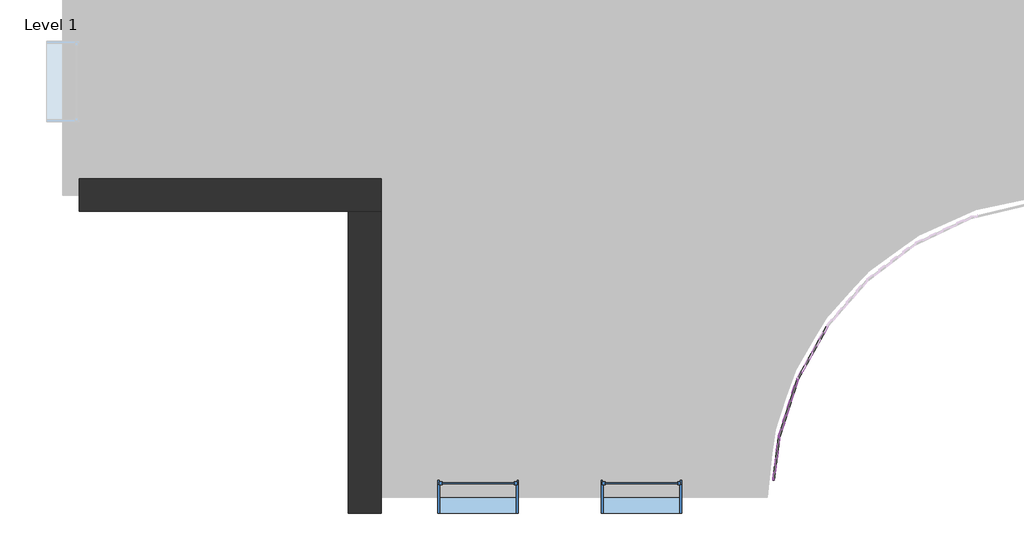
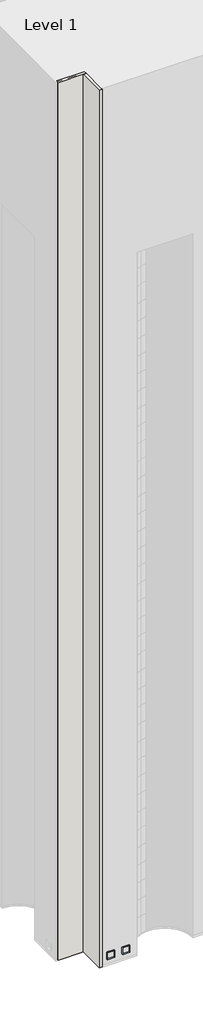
# One storey, part 1 of 20: 117 plates, 2 walls, 2 windows.
"""IFC4 building model written with IfcOpenShell, lengths in millimetres."""

from ifc_helpers import new_model, si_unit, origin, place, context, project, spatial, faceted_brep, transform, mapped, element, save
from components import system_panel_glazed_d77d1ebf, system_panel_glazed_769dbdec, window_d0035ecf, window_d434eb62

model = new_model("IFC4")

# Units and contexts
model_context = context("Model", 3, world=origin())
ifc_project = project(units=[si_unit("LENGTHUNIT", "METRE", prefix="MILLI")], contexts=[model_context])

# Site, building, storey
site = spatial("IfcSite", under=ifc_project)
building = spatial("IfcBuilding", under=site)
storey = spatial("IfcBuildingStorey", under=building, Name="Level 1", Elevation=0.0)

# Plates
placement = place(None, origin())
system_panel_glazed_shape = system_panel_glazed_d77d1ebf(model_context)
element("IfcPlate", 1, ObjectType="System Panel : Glazed", at=placement, inside=storey, context=model_context, shape_type="MappedRepresentation", body=[
    mapped(system_panel_glazed_shape, transform((-341.6843115, -19264.3431106, 0.0), x_axis=(-0.4890804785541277, -0.8722386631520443, 0.0), y_axis=(0.8722386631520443, -0.4890804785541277, 0.0), z_axis=(0.0, 0.0, 1.0))),
])
element("IfcPlate", 2, ObjectType="System Panel : Glazed", at=placement, inside=storey, context=model_context, shape_type="MappedRepresentation", body=[
    mapped(system_panel_glazed_shape, transform((-702.6313416, -20099.2151599, 0.0), x_axis=(-0.30039246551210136, -0.953815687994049, 0.0), y_axis=(0.953815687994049, -0.30039246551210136, 0.0), z_axis=(0.0, 0.0, 1.0))),
])
element("IfcPlate", 3, ObjectType="System Panel : Glazed", at=placement, inside=storey, context=model_context, shape_type="MappedRepresentation", body=[
    mapped(system_panel_glazed_shape, transform((-341.6843115, -19264.3431106, 3048.0), x_axis=(-0.4890804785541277, -0.8722386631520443, 0.0), y_axis=(0.8722386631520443, -0.4890804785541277, 0.0), z_axis=(0.0, 0.0, 1.0))),
])
element("IfcPlate", 4, ObjectType="System Panel : Glazed", at=placement, inside=storey, context=model_context, shape_type="MappedRepresentation", body=[
    mapped(system_panel_glazed_shape, transform((-702.6313416, -20099.2151599, 3048.0), x_axis=(-0.30039246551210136, -0.953815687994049, 0.0), y_axis=(0.953815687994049, -0.30039246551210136, 0.0), z_axis=(0.0, 0.0, 1.0))),
])
element("IfcPlate", 5, ObjectType="System Panel : Glazed", at=placement, inside=storey, context=model_context, shape_type="MappedRepresentation", body=[
    mapped(system_panel_glazed_shape, transform((-341.6843115, -19264.3431106, 6096.0), x_axis=(-0.4890804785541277, -0.8722386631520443, 0.0), y_axis=(0.8722386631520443, -0.4890804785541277, 0.0), z_axis=(0.0, 0.0, 1.0))),
])
element("IfcPlate", 6, ObjectType="System Panel : Glazed", at=placement, inside=storey, context=model_context, shape_type="MappedRepresentation", body=[
    mapped(system_panel_glazed_shape, transform((-702.6313416, -20099.2151599, 6096.0), x_axis=(-0.30039246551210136, -0.953815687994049, 0.0), y_axis=(0.953815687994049, -0.30039246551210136, 0.0), z_axis=(0.0, 0.0, 1.0))),
])
element("IfcPlate", 7, ObjectType="System Panel : Glazed", at=placement, inside=storey, context=model_context, shape_type="MappedRepresentation", body=[
    mapped(system_panel_glazed_shape, transform((-341.6843115, -19264.3431106, 9144.0), x_axis=(-0.4890804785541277, -0.8722386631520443, 0.0), y_axis=(0.8722386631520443, -0.4890804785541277, 0.0), z_axis=(0.0, 0.0, 1.0))),
])
element("IfcPlate", 8, ObjectType="System Panel : Glazed", at=placement, inside=storey, context=model_context, shape_type="MappedRepresentation", body=[
    mapped(system_panel_glazed_shape, transform((-702.6313416, -20099.2151599, 9144.0), x_axis=(-0.30039246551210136, -0.953815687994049, 0.0), y_axis=(0.953815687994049, -0.30039246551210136, 0.0), z_axis=(0.0, 0.0, 1.0))),
])
element("IfcPlate", 9, ObjectType="System Panel : Glazed", at=placement, inside=storey, context=model_context, shape_type="MappedRepresentation", body=[
    mapped(system_panel_glazed_shape, transform((-341.6843115, -19264.3431106, 12192.0), x_axis=(-0.4890804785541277, -0.8722386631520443, 0.0), y_axis=(0.8722386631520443, -0.4890804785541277, 0.0), z_axis=(0.0, 0.0, 1.0))),
])
element("IfcPlate", 10, ObjectType="System Panel : Glazed", at=placement, inside=storey, context=model_context, shape_type="MappedRepresentation", body=[
    mapped(system_panel_glazed_shape, transform((-702.6313416, -20099.2151599, 12192.0), x_axis=(-0.30039246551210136, -0.953815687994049, 0.0), y_axis=(0.953815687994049, -0.30039246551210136, 0.0), z_axis=(0.0, 0.0, 1.0))),
])
element("IfcPlate", 11, ObjectType="System Panel : Glazed", at=placement, inside=storey, context=model_context, shape_type="MappedRepresentation", body=[
    mapped(system_panel_glazed_shape, transform((-341.6843115, -19264.3431106, 15240.0), x_axis=(-0.4890804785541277, -0.8722386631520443, 0.0), y_axis=(0.8722386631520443, -0.4890804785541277, 0.0), z_axis=(0.0, 0.0, 1.0))),
])
element("IfcPlate", 12, ObjectType="System Panel : Glazed", at=placement, inside=storey, context=model_context, shape_type="MappedRepresentation", body=[
    mapped(system_panel_glazed_shape, transform((-702.6313416, -20099.2151599, 15240.0), x_axis=(-0.30039246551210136, -0.953815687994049, 0.0), y_axis=(0.953815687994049, -0.30039246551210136, 0.0), z_axis=(0.0, 0.0, 1.0))),
])
element("IfcPlate", 13, ObjectType="System Panel : Glazed", at=placement, inside=storey, context=model_context, shape_type="MappedRepresentation", body=[
    mapped(system_panel_glazed_shape, transform((-341.6843115, -19264.3431106, 18288.0), x_axis=(-0.48908047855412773, -0.8722386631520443, 0.0), y_axis=(0.8722386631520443, -0.48908047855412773, 0.0), z_axis=(0.0, 0.0, 1.0))),
])
element("IfcPlate", 14, ObjectType="System Panel : Glazed", at=placement, inside=storey, context=model_context, shape_type="MappedRepresentation", body=[
    mapped(system_panel_glazed_shape, transform((-702.6313416, -20099.2151599, 18288.0), x_axis=(-0.3003924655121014, -0.953815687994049, 0.0), y_axis=(0.953815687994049, -0.3003924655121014, 0.0), z_axis=(0.0, 0.0, 1.0))),
])
element("IfcPlate", 15, ObjectType="System Panel : Glazed", at=placement, inside=storey, context=model_context, shape_type="MappedRepresentation", body=[
    mapped(system_panel_glazed_shape, transform((-341.6843115, -19264.3431106, 21336.0), x_axis=(-0.4890804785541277, -0.8722386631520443, 0.0), y_axis=(0.8722386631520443, -0.4890804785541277, 0.0), z_axis=(0.0, 0.0, 1.0))),
])
element("IfcPlate", 16, ObjectType="System Panel : Glazed", at=placement, inside=storey, context=model_context, shape_type="MappedRepresentation", body=[
    mapped(system_panel_glazed_shape, transform((-702.6313416, -20099.2151599, 21336.0), x_axis=(-0.30039246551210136, -0.953815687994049, 0.0), y_axis=(0.953815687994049, -0.30039246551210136, 0.0), z_axis=(0.0, 0.0, 1.0))),
])
element("IfcPlate", 17, ObjectType="System Panel : Glazed", at=placement, inside=storey, context=model_context, shape_type="MappedRepresentation", body=[
    mapped(system_panel_glazed_shape, transform((-341.6843115, -19264.3431106, 24384.0), x_axis=(-0.4890804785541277, -0.8722386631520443, 0.0), y_axis=(0.8722386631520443, -0.4890804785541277, 0.0), z_axis=(0.0, 0.0, 1.0))),
])
element("IfcPlate", 18, ObjectType="System Panel : Glazed", at=placement, inside=storey, context=model_context, shape_type="MappedRepresentation", body=[
    mapped(system_panel_glazed_shape, transform((-702.6313416, -20099.2151599, 24384.0), x_axis=(-0.30039246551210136, -0.953815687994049, 0.0), y_axis=(0.953815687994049, -0.30039246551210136, 0.0), z_axis=(0.0, 0.0, 1.0))),
])
element("IfcPlate", 19, ObjectType="System Panel : Glazed", at=placement, inside=storey, context=model_context, shape_type="MappedRepresentation", body=[
    mapped(system_panel_glazed_shape, transform((-341.6843115, -19264.3431106, 27432.0), x_axis=(-0.4890804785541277, -0.8722386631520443, 0.0), y_axis=(0.8722386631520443, -0.4890804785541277, 0.0), z_axis=(0.0, 0.0, 1.0))),
])
element("IfcPlate", 20, ObjectType="System Panel : Glazed", at=placement, inside=storey, context=model_context, shape_type="MappedRepresentation", body=[
    mapped(system_panel_glazed_shape, transform((-702.6313416, -20099.2151599, 27432.0), x_axis=(-0.30039246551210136, -0.953815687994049, 0.0), y_axis=(0.953815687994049, -0.30039246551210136, 0.0), z_axis=(0.0, 0.0, 1.0))),
])
element("IfcPlate", 21, ObjectType="System Panel : Glazed", at=placement, inside=storey, context=model_context, shape_type="MappedRepresentation", body=[
    mapped(system_panel_glazed_shape, transform((-341.6843115, -19264.3431106, 30480.0), x_axis=(-0.4890804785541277, -0.8722386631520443, 0.0), y_axis=(0.8722386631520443, -0.4890804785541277, 0.0), z_axis=(0.0, 0.0, 1.0))),
])
element("IfcPlate", 22, ObjectType="System Panel : Glazed", at=placement, inside=storey, context=model_context, shape_type="MappedRepresentation", body=[
    mapped(system_panel_glazed_shape, transform((-702.6313416, -20099.2151599, 30480.0), x_axis=(-0.30039246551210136, -0.953815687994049, 0.0), y_axis=(0.953815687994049, -0.30039246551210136, 0.0), z_axis=(0.0, 0.0, 1.0))),
])
element("IfcPlate", 23, ObjectType="System Panel : Glazed", at=placement, inside=storey, context=model_context, shape_type="MappedRepresentation", body=[
    mapped(system_panel_glazed_shape, transform((-341.6843115, -19264.3431106, 33528.0), x_axis=(-0.4890804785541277, -0.8722386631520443, 0.0), y_axis=(0.8722386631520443, -0.4890804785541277, 0.0), z_axis=(0.0, 0.0, 1.0))),
])
element("IfcPlate", 24, ObjectType="System Panel : Glazed", at=placement, inside=storey, context=model_context, shape_type="MappedRepresentation", body=[
    mapped(system_panel_glazed_shape, transform((-702.6313416, -20099.2151599, 33528.0), x_axis=(-0.30039246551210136, -0.953815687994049, 0.0), y_axis=(0.953815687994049, -0.30039246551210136, 0.0), z_axis=(0.0, 0.0, 1.0))),
])
element("IfcPlate", 25, ObjectType="System Panel : Glazed", at=placement, inside=storey, context=model_context, shape_type="MappedRepresentation", body=[
    mapped(system_panel_glazed_shape, transform((-341.6843115, -19264.3431106, 36576.0), x_axis=(-0.4890804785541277, -0.8722386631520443, 0.0), y_axis=(0.8722386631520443, -0.4890804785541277, 0.0), z_axis=(0.0, 0.0, 1.0))),
])
element("IfcPlate", 26, ObjectType="System Panel : Glazed", at=placement, inside=storey, context=model_context, shape_type="MappedRepresentation", body=[
    mapped(system_panel_glazed_shape, transform((-702.6313416, -20099.2151599, 36576.0), x_axis=(-0.30039246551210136, -0.953815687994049, 0.0), y_axis=(0.953815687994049, -0.30039246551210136, 0.0), z_axis=(0.0, 0.0, 1.0))),
])
element("IfcPlate", 27, ObjectType="System Panel : Glazed", at=placement, inside=storey, context=model_context, shape_type="MappedRepresentation", body=[
    mapped(system_panel_glazed_shape, transform((-341.6843115, -19264.3431106, 39624.0), x_axis=(-0.4890804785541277, -0.8722386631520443, 0.0), y_axis=(0.8722386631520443, -0.4890804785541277, 0.0), z_axis=(0.0, 0.0, 1.0))),
])
element("IfcPlate", 28, ObjectType="System Panel : Glazed", at=placement, inside=storey, context=model_context, shape_type="MappedRepresentation", body=[
    mapped(system_panel_glazed_shape, transform((-702.6313416, -20099.2151599, 39624.0), x_axis=(-0.30039246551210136, -0.953815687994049, 0.0), y_axis=(0.953815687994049, -0.30039246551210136, 0.0), z_axis=(0.0, 0.0, 1.0))),
])
element("IfcPlate", 29, ObjectType="System Panel : Glazed", at=placement, inside=storey, context=model_context, shape_type="MappedRepresentation", body=[
    mapped(system_panel_glazed_shape, transform((-341.6843115, -19264.3431106, 42672.0), x_axis=(-0.4890804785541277, -0.8722386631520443, 0.0), y_axis=(0.8722386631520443, -0.4890804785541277, 0.0), z_axis=(0.0, 0.0, 1.0))),
])
element("IfcPlate", 30, ObjectType="System Panel : Glazed", at=placement, inside=storey, context=model_context, shape_type="MappedRepresentation", body=[
    mapped(system_panel_glazed_shape, transform((-702.6313416, -20099.2151599, 42672.0), x_axis=(-0.30039246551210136, -0.953815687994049, 0.0), y_axis=(0.953815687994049, -0.30039246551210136, 0.0), z_axis=(0.0, 0.0, 1.0))),
])
element("IfcPlate", 31, ObjectType="System Panel : Glazed", at=placement, inside=storey, context=model_context, shape_type="MappedRepresentation", body=[
    mapped(system_panel_glazed_shape, transform((-341.6843115, -19264.3431106, 45720.0), x_axis=(-0.4890804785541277, -0.8722386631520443, 0.0), y_axis=(0.8722386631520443, -0.4890804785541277, 0.0), z_axis=(0.0, 0.0, 1.0))),
])
element("IfcPlate", 32, ObjectType="System Panel : Glazed", at=placement, inside=storey, context=model_context, shape_type="MappedRepresentation", body=[
    mapped(system_panel_glazed_shape, transform((-702.6313416, -20099.2151599, 45720.0), x_axis=(-0.30039246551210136, -0.953815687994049, 0.0), y_axis=(0.953815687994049, -0.30039246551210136, 0.0), z_axis=(0.0, 0.0, 1.0))),
])
element("IfcPlate", 33, ObjectType="System Panel : Glazed", at=placement, inside=storey, context=model_context, shape_type="MappedRepresentation", body=[
    mapped(system_panel_glazed_shape, transform((-341.6843115, -19264.3431106, 48768.0), x_axis=(-0.4890804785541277, -0.8722386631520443, 0.0), y_axis=(0.8722386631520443, -0.4890804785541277, 0.0), z_axis=(0.0, 0.0, 1.0))),
])
element("IfcPlate", 34, ObjectType="System Panel : Glazed", at=placement, inside=storey, context=model_context, shape_type="MappedRepresentation", body=[
    mapped(system_panel_glazed_shape, transform((-702.6313416, -20099.2151599, 48768.0), x_axis=(-0.30039246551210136, -0.953815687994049, 0.0), y_axis=(0.953815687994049, -0.30039246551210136, 0.0), z_axis=(0.0, 0.0, 1.0))),
])
element("IfcPlate", 35, ObjectType="System Panel : Glazed", at=placement, inside=storey, context=model_context, shape_type="MappedRepresentation", body=[
    mapped(system_panel_glazed_shape, transform((-341.6843115, -19264.3431106, 51816.0), x_axis=(-0.4890804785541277, -0.8722386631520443, 0.0), y_axis=(0.8722386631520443, -0.4890804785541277, 0.0), z_axis=(0.0, 0.0, 1.0))),
])
element("IfcPlate", 36, ObjectType="System Panel : Glazed", at=placement, inside=storey, context=model_context, shape_type="MappedRepresentation", body=[
    mapped(system_panel_glazed_shape, transform((-702.6313416, -20099.2151599, 51816.0), x_axis=(-0.30039246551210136, -0.953815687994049, 0.0), y_axis=(0.953815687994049, -0.30039246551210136, 0.0), z_axis=(0.0, 0.0, 1.0))),
])
element("IfcPlate", 37, ObjectType="System Panel : Glazed", at=placement, inside=storey, context=model_context, shape_type="MappedRepresentation", body=[
    mapped(system_panel_glazed_shape, transform((-341.6843115, -19264.3431106, 54864.0), x_axis=(-0.4890804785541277, -0.8722386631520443, 0.0), y_axis=(0.8722386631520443, -0.4890804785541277, 0.0), z_axis=(0.0, 0.0, 1.0))),
])
element("IfcPlate", 38, ObjectType="System Panel : Glazed", at=placement, inside=storey, context=model_context, shape_type="MappedRepresentation", body=[
    mapped(system_panel_glazed_shape, transform((-702.6313416, -20099.2151599, 54864.0), x_axis=(-0.30039246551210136, -0.953815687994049, 0.0), y_axis=(0.953815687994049, -0.30039246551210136, 0.0), z_axis=(0.0, 0.0, 1.0))),
])
element("IfcPlate", 39, ObjectType="System Panel : Glazed", at=placement, inside=storey, context=model_context, shape_type="MappedRepresentation", body=[
    mapped(system_panel_glazed_shape, transform((-341.6843115, -19264.3431106, 57912.0), x_axis=(-0.4890804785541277, -0.8722386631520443, 0.0), y_axis=(0.8722386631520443, -0.4890804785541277, 0.0), z_axis=(0.0, 0.0, 1.0))),
])
element("IfcPlate", 40, ObjectType="System Panel : Glazed", at=placement, inside=storey, context=model_context, shape_type="MappedRepresentation", body=[
    mapped(system_panel_glazed_shape, transform((-702.6313416, -20099.2151599, 57912.0), x_axis=(-0.30039246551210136, -0.953815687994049, 0.0), y_axis=(0.953815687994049, -0.30039246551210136, 0.0), z_axis=(0.0, 0.0, 1.0))),
])
element("IfcPlate", 41, ObjectType="System Panel : Glazed", at=placement, inside=storey, context=model_context, shape_type="MappedRepresentation", body=[
    mapped(system_panel_glazed_shape, transform((-341.6843115, -19264.3431106, 60960.0), x_axis=(-0.4890804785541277, -0.8722386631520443, 0.0), y_axis=(0.8722386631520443, -0.4890804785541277, 0.0), z_axis=(0.0, 0.0, 1.0))),
])
element("IfcPlate", 42, ObjectType="System Panel : Glazed", at=placement, inside=storey, context=model_context, shape_type="MappedRepresentation", body=[
    mapped(system_panel_glazed_shape, transform((-702.6313416, -20099.2151599, 60960.0), x_axis=(-0.30039246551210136, -0.953815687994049, 0.0), y_axis=(0.953815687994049, -0.30039246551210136, 0.0), z_axis=(0.0, 0.0, 1.0))),
])
element("IfcPlate", 43, ObjectType="System Panel : Glazed", at=placement, inside=storey, context=model_context, shape_type="MappedRepresentation", body=[
    mapped(system_panel_glazed_shape, transform((-341.6843115, -19264.3431106, 64008.0), x_axis=(-0.4890804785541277, -0.8722386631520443, 0.0), y_axis=(0.8722386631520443, -0.4890804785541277, 0.0), z_axis=(0.0, 0.0, 1.0))),
])
element("IfcPlate", 44, ObjectType="System Panel : Glazed", at=placement, inside=storey, context=model_context, shape_type="MappedRepresentation", body=[
    mapped(system_panel_glazed_shape, transform((-702.6313416, -20099.2151599, 64008.0), x_axis=(-0.30039246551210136, -0.953815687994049, 0.0), y_axis=(0.953815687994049, -0.30039246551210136, 0.0), z_axis=(0.0, 0.0, 1.0))),
])
element("IfcPlate", 45, ObjectType="System Panel : Glazed", at=placement, inside=storey, context=model_context, shape_type="MappedRepresentation", body=[
    mapped(system_panel_glazed_shape, transform((-341.6843115, -19264.3431106, 67056.0), x_axis=(-0.4890804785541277, -0.8722386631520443, 0.0), y_axis=(0.8722386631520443, -0.4890804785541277, 0.0), z_axis=(0.0, 0.0, 1.0))),
])
element("IfcPlate", 46, ObjectType="System Panel : Glazed", at=placement, inside=storey, context=model_context, shape_type="MappedRepresentation", body=[
    mapped(system_panel_glazed_shape, transform((-702.6313416, -20099.2151599, 67056.0), x_axis=(-0.30039246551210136, -0.953815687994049, 0.0), y_axis=(0.953815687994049, -0.30039246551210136, 0.0), z_axis=(0.0, 0.0, 1.0))),
])
element("IfcPlate", 47, ObjectType="System Panel : Glazed", at=placement, inside=storey, context=model_context, shape_type="MappedRepresentation", body=[
    mapped(system_panel_glazed_shape, transform((-341.6843115, -19264.3431106, 70104.0), x_axis=(-0.4890804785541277, -0.8722386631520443, 0.0), y_axis=(0.8722386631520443, -0.4890804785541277, 0.0), z_axis=(0.0, 0.0, 1.0))),
])
element("IfcPlate", 48, ObjectType="System Panel : Glazed", at=placement, inside=storey, context=model_context, shape_type="MappedRepresentation", body=[
    mapped(system_panel_glazed_shape, transform((-702.6313416, -20099.2151599, 70104.0), x_axis=(-0.30039246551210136, -0.953815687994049, 0.0), y_axis=(0.953815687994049, -0.30039246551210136, 0.0), z_axis=(0.0, 0.0, 1.0))),
])
element("IfcPlate", 49, ObjectType="System Panel : Glazed", at=placement, inside=storey, context=model_context, shape_type="MappedRepresentation", body=[
    mapped(system_panel_glazed_shape, transform((-341.6843115, -19264.3431106, 73152.0), x_axis=(-0.4890804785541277, -0.8722386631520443, 0.0), y_axis=(0.8722386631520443, -0.4890804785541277, 0.0), z_axis=(0.0, 0.0, 1.0))),
])
element("IfcPlate", 50, ObjectType="System Panel : Glazed", at=placement, inside=storey, context=model_context, shape_type="MappedRepresentation", body=[
    mapped(system_panel_glazed_shape, transform((-702.6313416, -20099.2151599, 73152.0), x_axis=(-0.30039246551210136, -0.953815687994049, 0.0), y_axis=(0.953815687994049, -0.30039246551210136, 0.0), z_axis=(0.0, 0.0, 1.0))),
])
element("IfcPlate", 51, ObjectType="System Panel : Glazed", at=placement, inside=storey, context=model_context, shape_type="MappedRepresentation", body=[
    mapped(system_panel_glazed_shape, transform((-341.6843115, -19264.3431106, 76200.0), x_axis=(-0.4890804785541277, -0.8722386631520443, 0.0), y_axis=(0.8722386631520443, -0.4890804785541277, 0.0), z_axis=(0.0, 0.0, 1.0))),
])
element("IfcPlate", 52, ObjectType="System Panel : Glazed", at=placement, inside=storey, context=model_context, shape_type="MappedRepresentation", body=[
    mapped(system_panel_glazed_shape, transform((-702.6313416, -20099.2151599, 76200.0), x_axis=(-0.30039246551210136, -0.953815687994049, 0.0), y_axis=(0.953815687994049, -0.30039246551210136, 0.0), z_axis=(0.0, 0.0, 1.0))),
])
element("IfcPlate", 53, ObjectType="System Panel : Glazed", at=placement, inside=storey, context=model_context, shape_type="MappedRepresentation", body=[
    mapped(system_panel_glazed_shape, transform((-341.6843115, -19264.3431106, 79248.0), x_axis=(-0.4890804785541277, -0.8722386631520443, 0.0), y_axis=(0.8722386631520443, -0.4890804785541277, 0.0), z_axis=(0.0, 0.0, 1.0))),
])
element("IfcPlate", 54, ObjectType="System Panel : Glazed", at=placement, inside=storey, context=model_context, shape_type="MappedRepresentation", body=[
    mapped(system_panel_glazed_shape, transform((-702.6313416, -20099.2151599, 79248.0), x_axis=(-0.30039246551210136, -0.953815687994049, 0.0), y_axis=(0.953815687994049, -0.30039246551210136, 0.0), z_axis=(0.0, 0.0, 1.0))),
])
element("IfcPlate", 55, ObjectType="System Panel : Glazed", at=placement, inside=storey, context=model_context, shape_type="MappedRepresentation", body=[
    mapped(system_panel_glazed_shape, transform((-341.6843115, -19264.3431106, 82296.0), x_axis=(-0.4890804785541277, -0.8722386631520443, 0.0), y_axis=(0.8722386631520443, -0.4890804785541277, 0.0), z_axis=(0.0, 0.0, 1.0))),
])
element("IfcPlate", 56, ObjectType="System Panel : Glazed", at=placement, inside=storey, context=model_context, shape_type="MappedRepresentation", body=[
    mapped(system_panel_glazed_shape, transform((-702.6313416, -20099.2151599, 82296.0), x_axis=(-0.30039246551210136, -0.953815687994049, 0.0), y_axis=(0.953815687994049, -0.30039246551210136, 0.0), z_axis=(0.0, 0.0, 1.0))),
])
element("IfcPlate", 57, ObjectType="System Panel : Glazed", at=placement, inside=storey, context=model_context, shape_type="MappedRepresentation", body=[
    mapped(system_panel_glazed_shape, transform((-341.6843115, -19264.3431106, 85344.0), x_axis=(-0.4890804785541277, -0.8722386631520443, 0.0), y_axis=(0.8722386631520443, -0.4890804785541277, 0.0), z_axis=(0.0, 0.0, 1.0))),
])
element("IfcPlate", 58, ObjectType="System Panel : Glazed", at=placement, inside=storey, context=model_context, shape_type="MappedRepresentation", body=[
    mapped(system_panel_glazed_shape, transform((-702.6313416, -20099.2151599, 85344.0), x_axis=(-0.30039246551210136, -0.953815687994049, 0.0), y_axis=(0.953815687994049, -0.30039246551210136, 0.0), z_axis=(0.0, 0.0, 1.0))),
])
element("IfcPlate", 59, ObjectType="System Panel : Glazed", at=placement, inside=storey, context=model_context, shape_type="MappedRepresentation", body=[
    mapped(system_panel_glazed_shape, transform((-341.6843115, -19264.3431106, 88392.0), x_axis=(-0.4890804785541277, -0.8722386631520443, 0.0), y_axis=(0.8722386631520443, -0.4890804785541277, 0.0), z_axis=(0.0, 0.0, 1.0))),
])
element("IfcPlate", 60, ObjectType="System Panel : Glazed", at=placement, inside=storey, context=model_context, shape_type="MappedRepresentation", body=[
    mapped(system_panel_glazed_shape, transform((-702.6313416, -20099.2151599, 88392.0), x_axis=(-0.30039246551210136, -0.953815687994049, 0.0), y_axis=(0.953815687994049, -0.30039246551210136, 0.0), z_axis=(0.0, 0.0, 1.0))),
])
element("IfcPlate", 61, ObjectType="System Panel : Glazed", at=placement, inside=storey, context=model_context, shape_type="MappedRepresentation", body=[
    mapped(system_panel_glazed_shape, transform((-341.6843115, -19264.3431106, 91440.0), x_axis=(-0.4890804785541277, -0.8722386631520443, 0.0), y_axis=(0.8722386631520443, -0.4890804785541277, 0.0), z_axis=(0.0, 0.0, 1.0))),
])
element("IfcPlate", 62, ObjectType="System Panel : Glazed", at=placement, inside=storey, context=model_context, shape_type="MappedRepresentation", body=[
    mapped(system_panel_glazed_shape, transform((-702.6313416, -20099.2151599, 91440.0), x_axis=(-0.30039246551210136, -0.953815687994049, 0.0), y_axis=(0.953815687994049, -0.30039246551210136, 0.0), z_axis=(0.0, 0.0, 1.0))),
])
element("IfcPlate", 63, ObjectType="System Panel : Glazed", at=placement, inside=storey, context=model_context, shape_type="MappedRepresentation", body=[
    mapped(system_panel_glazed_shape, transform((-341.6843115, -19264.3431106, 94488.0), x_axis=(-0.4890804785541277, -0.8722386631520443, 0.0), y_axis=(0.8722386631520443, -0.4890804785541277, 0.0), z_axis=(0.0, 0.0, 1.0))),
])
element("IfcPlate", 64, ObjectType="System Panel : Glazed", at=placement, inside=storey, context=model_context, shape_type="MappedRepresentation", body=[
    mapped(system_panel_glazed_shape, transform((-702.6313416, -20099.2151599, 94488.0), x_axis=(-0.30039246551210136, -0.953815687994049, 0.0), y_axis=(0.953815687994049, -0.30039246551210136, 0.0), z_axis=(0.0, 0.0, 1.0))),
])
element("IfcPlate", 65, ObjectType="System Panel : Glazed", at=placement, inside=storey, context=model_context, shape_type="MappedRepresentation", body=[
    mapped(system_panel_glazed_shape, transform((-341.6843115, -19264.3431106, 97536.0), x_axis=(-0.4890804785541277, -0.8722386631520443, 0.0), y_axis=(0.8722386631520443, -0.4890804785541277, 0.0), z_axis=(0.0, 0.0, 1.0))),
])
element("IfcPlate", 66, ObjectType="System Panel : Glazed", at=placement, inside=storey, context=model_context, shape_type="MappedRepresentation", body=[
    mapped(system_panel_glazed_shape, transform((-702.6313416, -20099.2151599, 97536.0), x_axis=(-0.30039246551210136, -0.953815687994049, 0.0), y_axis=(0.953815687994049, -0.30039246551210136, 0.0), z_axis=(0.0, 0.0, 1.0))),
])
element("IfcPlate", 67, ObjectType="System Panel : Glazed", at=placement, inside=storey, context=model_context, shape_type="MappedRepresentation", body=[
    mapped(system_panel_glazed_shape, transform((-341.6843115, -19264.3431106, 100584.0), x_axis=(-0.4890804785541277, -0.8722386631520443, 0.0), y_axis=(0.8722386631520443, -0.4890804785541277, 0.0), z_axis=(0.0, 0.0, 1.0))),
])
element("IfcPlate", 68, ObjectType="System Panel : Glazed", at=placement, inside=storey, context=model_context, shape_type="MappedRepresentation", body=[
    mapped(system_panel_glazed_shape, transform((-702.6313416, -20099.2151599, 100584.0), x_axis=(-0.30039246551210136, -0.953815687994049, 0.0), y_axis=(0.953815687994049, -0.30039246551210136, 0.0), z_axis=(0.0, 0.0, 1.0))),
])
element("IfcPlate", 69, ObjectType="System Panel : Glazed", at=placement, inside=storey, context=model_context, shape_type="MappedRepresentation", body=[
    mapped(system_panel_glazed_shape, transform((-341.6843115, -19264.3431106, 103632.0), x_axis=(-0.4890804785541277, -0.8722386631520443, 0.0), y_axis=(0.8722386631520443, -0.4890804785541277, 0.0), z_axis=(0.0, 0.0, 1.0))),
])
element("IfcPlate", 70, ObjectType="System Panel : Glazed", at=placement, inside=storey, context=model_context, shape_type="MappedRepresentation", body=[
    mapped(system_panel_glazed_shape, transform((-702.6313416, -20099.2151599, 103632.0), x_axis=(-0.30039246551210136, -0.953815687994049, 0.0), y_axis=(0.953815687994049, -0.30039246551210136, 0.0), z_axis=(0.0, 0.0, 1.0))),
])
element("IfcPlate", 71, ObjectType="System Panel : Glazed", at=placement, inside=storey, context=model_context, shape_type="MappedRepresentation", body=[
    mapped(system_panel_glazed_shape, transform((-341.6843115, -19264.3431106, 106680.0), x_axis=(-0.4890804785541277, -0.8722386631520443, 0.0), y_axis=(0.8722386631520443, -0.4890804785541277, 0.0), z_axis=(0.0, 0.0, 1.0))),
])
element("IfcPlate", 72, ObjectType="System Panel : Glazed", at=placement, inside=storey, context=model_context, shape_type="MappedRepresentation", body=[
    mapped(system_panel_glazed_shape, transform((-702.6313416, -20099.2151599, 106680.0), x_axis=(-0.30039246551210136, -0.953815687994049, 0.0), y_axis=(0.953815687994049, -0.30039246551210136, 0.0), z_axis=(0.0, 0.0, 1.0))),
])
element("IfcPlate", 73, ObjectType="System Panel : Glazed", at=placement, inside=storey, context=model_context, shape_type="MappedRepresentation", body=[
    mapped(system_panel_glazed_shape, transform((-341.6843115, -19264.3431106, 109728.0), x_axis=(-0.4890804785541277, -0.8722386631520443, 0.0), y_axis=(0.8722386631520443, -0.4890804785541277, 0.0), z_axis=(0.0, 0.0, 1.0))),
])
element("IfcPlate", 74, ObjectType="System Panel : Glazed", at=placement, inside=storey, context=model_context, shape_type="MappedRepresentation", body=[
    mapped(system_panel_glazed_shape, transform((-702.6313416, -20099.2151599, 109728.0), x_axis=(-0.30039246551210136, -0.953815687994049, 0.0), y_axis=(0.953815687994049, -0.30039246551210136, 0.0), z_axis=(0.0, 0.0, 1.0))),
])
element("IfcPlate", 75, ObjectType="System Panel : Glazed", at=placement, inside=storey, context=model_context, shape_type="MappedRepresentation", body=[
    mapped(system_panel_glazed_shape, transform((-702.6313416, -20099.2151599, 112776.0), x_axis=(-0.30039246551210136, -0.953815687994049, 0.0), y_axis=(0.953815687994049, -0.30039246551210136, 0.0), z_axis=(0.0, 0.0, 1.0))),
])
element("IfcPlate", 76, ObjectType="System Panel : Glazed", at=placement, inside=storey, context=model_context, shape_type="MappedRepresentation", body=[
    mapped(system_panel_glazed_shape, transform((-702.6313416, -20099.2151599, 115824.0), x_axis=(-0.30039246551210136, -0.953815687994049, 0.0), y_axis=(0.953815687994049, -0.30039246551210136, 0.0), z_axis=(0.0, 0.0, 1.0))),
])
element("IfcPlate", 77, ObjectType="System Panel : Glazed", at=placement, inside=storey, context=model_context, shape_type="MappedRepresentation", body=[
    mapped(system_panel_glazed_shape, transform((-702.6313416, -20099.2151599, 118872.0), x_axis=(-0.30039246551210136, -0.953815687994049, 0.0), y_axis=(0.953815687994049, -0.30039246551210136, 0.0), z_axis=(0.0, 0.0, 1.0))),
])
system_panel_glazed_2_shape = system_panel_glazed_769dbdec(model_context)
element("IfcPlate", 78, ObjectType="System Panel : Glazed", at=placement, inside=storey, context=model_context, shape_type="MappedRepresentation", body=[
    mapped(system_panel_glazed_2_shape, transform((-881.7156475, -20856.4056189, 0.0), x_axis=(-0.12891857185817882, -0.99165518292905, 0.0), y_axis=(0.99165518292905, -0.12891857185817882, 0.0), z_axis=(0.0, 0.0, 1.0))),
])
element("IfcPlate", 79, ObjectType="System Panel : Glazed", at=placement, inside=storey, context=model_context, shape_type="MappedRepresentation", body=[
    mapped(system_panel_glazed_2_shape, transform((-881.7156475, -20856.4056189, 3048.0), x_axis=(-0.12891857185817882, -0.99165518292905, 0.0), y_axis=(0.99165518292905, -0.12891857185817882, 0.0), z_axis=(0.0, 0.0, 1.0))),
])
element("IfcPlate", 80, ObjectType="System Panel : Glazed", at=placement, inside=storey, context=model_context, shape_type="MappedRepresentation", body=[
    mapped(system_panel_glazed_2_shape, transform((-881.7156475, -20856.4056189, 6096.0), x_axis=(-0.12891857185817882, -0.99165518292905, 0.0), y_axis=(0.99165518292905, -0.12891857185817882, 0.0), z_axis=(0.0, 0.0, 1.0))),
])
element("IfcPlate", 81, ObjectType="System Panel : Glazed", at=placement, inside=storey, context=model_context, shape_type="MappedRepresentation", body=[
    mapped(system_panel_glazed_2_shape, transform((-881.7156475, -20856.4056189, 9144.0), x_axis=(-0.12891857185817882, -0.99165518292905, 0.0), y_axis=(0.99165518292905, -0.12891857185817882, 0.0), z_axis=(0.0, 0.0, 1.0))),
])
element("IfcPlate", 82, ObjectType="System Panel : Glazed", at=placement, inside=storey, context=model_context, shape_type="MappedRepresentation", body=[
    mapped(system_panel_glazed_2_shape, transform((-881.7156475, -20856.4056189, 12192.0), x_axis=(-0.12891857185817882, -0.99165518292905, 0.0), y_axis=(0.99165518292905, -0.12891857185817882, 0.0), z_axis=(0.0, 0.0, 1.0))),
])
element("IfcPlate", 83, ObjectType="System Panel : Glazed", at=placement, inside=storey, context=model_context, shape_type="MappedRepresentation", body=[
    mapped(system_panel_glazed_2_shape, transform((-881.7156475, -20856.4056189, 15240.0), x_axis=(-0.12891857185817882, -0.99165518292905, 0.0), y_axis=(0.99165518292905, -0.12891857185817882, 0.0), z_axis=(0.0, 0.0, 1.0))),
])
element("IfcPlate", 84, ObjectType="System Panel : Glazed", at=placement, inside=storey, context=model_context, shape_type="MappedRepresentation", body=[
    mapped(system_panel_glazed_2_shape, transform((-881.7156475, -20856.4056189, 18288.0), x_axis=(-0.12891857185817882, -0.99165518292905, 0.0), y_axis=(0.99165518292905, -0.12891857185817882, 0.0), z_axis=(0.0, 0.0, 1.0))),
])
element("IfcPlate", 85, ObjectType="System Panel : Glazed", at=placement, inside=storey, context=model_context, shape_type="MappedRepresentation", body=[
    mapped(system_panel_glazed_2_shape, transform((-881.7156475, -20856.4056189, 21336.0), x_axis=(-0.12891857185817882, -0.99165518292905, 0.0), y_axis=(0.99165518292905, -0.12891857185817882, 0.0), z_axis=(0.0, 0.0, 1.0))),
])
element("IfcPlate", 86, ObjectType="System Panel : Glazed", at=placement, inside=storey, context=model_context, shape_type="MappedRepresentation", body=[
    mapped(system_panel_glazed_2_shape, transform((-881.7156475, -20856.4056189, 24384.0), x_axis=(-0.12891857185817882, -0.99165518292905, 0.0), y_axis=(0.99165518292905, -0.12891857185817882, 0.0), z_axis=(0.0, 0.0, 1.0))),
])
element("IfcPlate", 87, ObjectType="System Panel : Glazed", at=placement, inside=storey, context=model_context, shape_type="MappedRepresentation", body=[
    mapped(system_panel_glazed_2_shape, transform((-881.7156475, -20856.4056189, 27432.0), x_axis=(-0.12891857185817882, -0.99165518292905, 0.0), y_axis=(0.99165518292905, -0.12891857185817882, 0.0), z_axis=(0.0, 0.0, 1.0))),
])
element("IfcPlate", 88, ObjectType="System Panel : Glazed", at=placement, inside=storey, context=model_context, shape_type="MappedRepresentation", body=[
    mapped(system_panel_glazed_2_shape, transform((-881.7156475, -20856.4056189, 30480.0), x_axis=(-0.12891857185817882, -0.99165518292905, 0.0), y_axis=(0.99165518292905, -0.12891857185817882, 0.0), z_axis=(0.0, 0.0, 1.0))),
])
element("IfcPlate", 89, ObjectType="System Panel : Glazed", at=placement, inside=storey, context=model_context, shape_type="MappedRepresentation", body=[
    mapped(system_panel_glazed_2_shape, transform((-881.7156475, -20856.4056189, 33528.0), x_axis=(-0.12891857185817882, -0.99165518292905, 0.0), y_axis=(0.99165518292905, -0.12891857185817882, 0.0), z_axis=(0.0, 0.0, 1.0))),
])
element("IfcPlate", 90, ObjectType="System Panel : Glazed", at=placement, inside=storey, context=model_context, shape_type="MappedRepresentation", body=[
    mapped(system_panel_glazed_2_shape, transform((-881.7156475, -20856.4056189, 36576.0), x_axis=(-0.12891857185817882, -0.99165518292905, 0.0), y_axis=(0.99165518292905, -0.12891857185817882, 0.0), z_axis=(0.0, 0.0, 1.0))),
])
element("IfcPlate", 91, ObjectType="System Panel : Glazed", at=placement, inside=storey, context=model_context, shape_type="MappedRepresentation", body=[
    mapped(system_panel_glazed_2_shape, transform((-881.7156475, -20856.4056189, 39624.0), x_axis=(-0.12891857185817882, -0.99165518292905, 0.0), y_axis=(0.99165518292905, -0.12891857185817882, 0.0), z_axis=(0.0, 0.0, 1.0))),
])
element("IfcPlate", 92, ObjectType="System Panel : Glazed", at=placement, inside=storey, context=model_context, shape_type="MappedRepresentation", body=[
    mapped(system_panel_glazed_2_shape, transform((-881.7156475, -20856.4056189, 42672.0), x_axis=(-0.12891857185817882, -0.99165518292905, 0.0), y_axis=(0.99165518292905, -0.12891857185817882, 0.0), z_axis=(0.0, 0.0, 1.0))),
])
element("IfcPlate", 93, ObjectType="System Panel : Glazed", at=placement, inside=storey, context=model_context, shape_type="MappedRepresentation", body=[
    mapped(system_panel_glazed_2_shape, transform((-881.7156475, -20856.4056189, 45720.0), x_axis=(-0.12891857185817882, -0.99165518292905, 0.0), y_axis=(0.99165518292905, -0.12891857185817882, 0.0), z_axis=(0.0, 0.0, 1.0))),
])
element("IfcPlate", 94, ObjectType="System Panel : Glazed", at=placement, inside=storey, context=model_context, shape_type="MappedRepresentation", body=[
    mapped(system_panel_glazed_2_shape, transform((-881.7156475, -20856.4056189, 48768.0), x_axis=(-0.12891857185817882, -0.99165518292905, 0.0), y_axis=(0.99165518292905, -0.12891857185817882, 0.0), z_axis=(0.0, 0.0, 1.0))),
])
element("IfcPlate", 95, ObjectType="System Panel : Glazed", at=placement, inside=storey, context=model_context, shape_type="MappedRepresentation", body=[
    mapped(system_panel_glazed_2_shape, transform((-881.7156475, -20856.4056189, 51816.0), x_axis=(-0.12891857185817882, -0.99165518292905, 0.0), y_axis=(0.99165518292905, -0.12891857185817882, 0.0), z_axis=(0.0, 0.0, 1.0))),
])
element("IfcPlate", 96, ObjectType="System Panel : Glazed", at=placement, inside=storey, context=model_context, shape_type="MappedRepresentation", body=[
    mapped(system_panel_glazed_2_shape, transform((-881.7156475, -20856.4056189, 54864.0), x_axis=(-0.12891857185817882, -0.99165518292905, 0.0), y_axis=(0.99165518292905, -0.12891857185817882, 0.0), z_axis=(0.0, 0.0, 1.0))),
])
element("IfcPlate", 97, ObjectType="System Panel : Glazed", at=placement, inside=storey, context=model_context, shape_type="MappedRepresentation", body=[
    mapped(system_panel_glazed_2_shape, transform((-881.7156475, -20856.4056189, 57912.0), x_axis=(-0.12891857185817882, -0.99165518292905, 0.0), y_axis=(0.99165518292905, -0.12891857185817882, 0.0), z_axis=(0.0, 0.0, 1.0))),
])
element("IfcPlate", 98, ObjectType="System Panel : Glazed", at=placement, inside=storey, context=model_context, shape_type="MappedRepresentation", body=[
    mapped(system_panel_glazed_2_shape, transform((-881.7156475, -20856.4056189, 60960.0), x_axis=(-0.12891857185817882, -0.99165518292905, 0.0), y_axis=(0.99165518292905, -0.12891857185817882, 0.0), z_axis=(0.0, 0.0, 1.0))),
])
element("IfcPlate", 99, ObjectType="System Panel : Glazed", at=placement, inside=storey, context=model_context, shape_type="MappedRepresentation", body=[
    mapped(system_panel_glazed_2_shape, transform((-881.7156475, -20856.4056189, 64008.0), x_axis=(-0.12891857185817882, -0.99165518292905, 0.0), y_axis=(0.99165518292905, -0.12891857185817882, 0.0), z_axis=(0.0, 0.0, 1.0))),
])
element("IfcPlate", 100, ObjectType="System Panel : Glazed", at=placement, inside=storey, context=model_context, shape_type="MappedRepresentation", body=[
    mapped(system_panel_glazed_2_shape, transform((-881.7156475, -20856.4056189, 67056.0), x_axis=(-0.12891857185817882, -0.99165518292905, 0.0), y_axis=(0.99165518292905, -0.12891857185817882, 0.0), z_axis=(0.0, 0.0, 1.0))),
])
element("IfcPlate", 101, ObjectType="System Panel : Glazed", at=placement, inside=storey, context=model_context, shape_type="MappedRepresentation", body=[
    mapped(system_panel_glazed_2_shape, transform((-881.7156475, -20856.4056189, 70104.0), x_axis=(-0.12891857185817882, -0.99165518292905, 0.0), y_axis=(0.99165518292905, -0.12891857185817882, 0.0), z_axis=(0.0, 0.0, 1.0))),
])
element("IfcPlate", 102, ObjectType="System Panel : Glazed", at=placement, inside=storey, context=model_context, shape_type="MappedRepresentation", body=[
    mapped(system_panel_glazed_2_shape, transform((-881.7156475, -20856.4056189, 73152.0), x_axis=(-0.12891857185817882, -0.99165518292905, 0.0), y_axis=(0.99165518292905, -0.12891857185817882, 0.0), z_axis=(0.0, 0.0, 1.0))),
])
element("IfcPlate", 103, ObjectType="System Panel : Glazed", at=placement, inside=storey, context=model_context, shape_type="MappedRepresentation", body=[
    mapped(system_panel_glazed_2_shape, transform((-881.7156475, -20856.4056189, 76200.0), x_axis=(-0.12891857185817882, -0.99165518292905, 0.0), y_axis=(0.99165518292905, -0.12891857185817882, 0.0), z_axis=(0.0, 0.0, 1.0))),
])
element("IfcPlate", 104, ObjectType="System Panel : Glazed", at=placement, inside=storey, context=model_context, shape_type="MappedRepresentation", body=[
    mapped(system_panel_glazed_2_shape, transform((-881.7156475, -20856.4056189, 79248.0), x_axis=(-0.12891857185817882, -0.99165518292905, 0.0), y_axis=(0.99165518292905, -0.12891857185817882, 0.0), z_axis=(0.0, 0.0, 1.0))),
])
element("IfcPlate", 105, ObjectType="System Panel : Glazed", at=placement, inside=storey, context=model_context, shape_type="MappedRepresentation", body=[
    mapped(system_panel_glazed_2_shape, transform((-881.7156475, -20856.4056189, 82296.0), x_axis=(-0.12891857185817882, -0.99165518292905, 0.0), y_axis=(0.99165518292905, -0.12891857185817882, 0.0), z_axis=(0.0, 0.0, 1.0))),
])
element("IfcPlate", 106, ObjectType="System Panel : Glazed", at=placement, inside=storey, context=model_context, shape_type="MappedRepresentation", body=[
    mapped(system_panel_glazed_2_shape, transform((-881.7156475, -20856.4056189, 85344.0), x_axis=(-0.12891857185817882, -0.99165518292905, 0.0), y_axis=(0.99165518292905, -0.12891857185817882, 0.0), z_axis=(0.0, 0.0, 1.0))),
])
element("IfcPlate", 107, ObjectType="System Panel : Glazed", at=placement, inside=storey, context=model_context, shape_type="MappedRepresentation", body=[
    mapped(system_panel_glazed_2_shape, transform((-881.7156475, -20856.4056189, 88392.0), x_axis=(-0.12891857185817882, -0.99165518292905, 0.0), y_axis=(0.99165518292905, -0.12891857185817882, 0.0), z_axis=(0.0, 0.0, 1.0))),
])
element("IfcPlate", 108, ObjectType="System Panel : Glazed", at=placement, inside=storey, context=model_context, shape_type="MappedRepresentation", body=[
    mapped(system_panel_glazed_2_shape, transform((-881.7156475, -20856.4056189, 91440.0), x_axis=(-0.12891857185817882, -0.99165518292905, 0.0), y_axis=(0.99165518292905, -0.12891857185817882, 0.0), z_axis=(0.0, 0.0, 1.0))),
])
element("IfcPlate", 109, ObjectType="System Panel : Glazed", at=placement, inside=storey, context=model_context, shape_type="MappedRepresentation", body=[
    mapped(system_panel_glazed_2_shape, transform((-881.7156475, -20856.4056189, 94488.0), x_axis=(-0.12891857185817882, -0.99165518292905, 0.0), y_axis=(0.99165518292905, -0.12891857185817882, 0.0), z_axis=(0.0, 0.0, 1.0))),
])
element("IfcPlate", 110, ObjectType="System Panel : Glazed", at=placement, inside=storey, context=model_context, shape_type="MappedRepresentation", body=[
    mapped(system_panel_glazed_2_shape, transform((-881.7156475, -20856.4056189, 97536.0), x_axis=(-0.12891857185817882, -0.99165518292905, 0.0), y_axis=(0.99165518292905, -0.12891857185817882, 0.0), z_axis=(0.0, 0.0, 1.0))),
])
element("IfcPlate", 111, ObjectType="System Panel : Glazed", at=placement, inside=storey, context=model_context, shape_type="MappedRepresentation", body=[
    mapped(system_panel_glazed_2_shape, transform((-881.7156475, -20856.4056189, 100584.0), x_axis=(-0.12891857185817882, -0.99165518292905, 0.0), y_axis=(0.99165518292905, -0.12891857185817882, 0.0), z_axis=(0.0, 0.0, 1.0))),
])
element("IfcPlate", 112, ObjectType="System Panel : Glazed", at=placement, inside=storey, context=model_context, shape_type="MappedRepresentation", body=[
    mapped(system_panel_glazed_2_shape, transform((-881.7156475, -20856.4056189, 103632.0), x_axis=(-0.12891857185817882, -0.99165518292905, 0.0), y_axis=(0.99165518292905, -0.12891857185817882, 0.0), z_axis=(0.0, 0.0, 1.0))),
])
element("IfcPlate", 113, ObjectType="System Panel : Glazed", at=placement, inside=storey, context=model_context, shape_type="MappedRepresentation", body=[
    mapped(system_panel_glazed_2_shape, transform((-881.7156475, -20856.4056189, 106680.0), x_axis=(-0.12891857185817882, -0.99165518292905, 0.0), y_axis=(0.99165518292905, -0.12891857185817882, 0.0), z_axis=(0.0, 0.0, 1.0))),
])
element("IfcPlate", 114, ObjectType="System Panel : Glazed", at=placement, inside=storey, context=model_context, shape_type="MappedRepresentation", body=[
    mapped(system_panel_glazed_2_shape, transform((-881.7156475, -20856.4056189, 109728.0), x_axis=(-0.12891857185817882, -0.99165518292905, 0.0), y_axis=(0.99165518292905, -0.12891857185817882, 0.0), z_axis=(0.0, 0.0, 1.0))),
])
element("IfcPlate", 115, ObjectType="System Panel : Glazed", at=placement, inside=storey, context=model_context, shape_type="MappedRepresentation", body=[
    mapped(system_panel_glazed_2_shape, transform((-881.7156475, -20856.4056189, 112776.0), x_axis=(-0.12891857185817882, -0.99165518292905, 0.0), y_axis=(0.99165518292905, -0.12891857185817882, 0.0), z_axis=(0.0, 0.0, 1.0))),
])
element("IfcPlate", 116, ObjectType="System Panel : Glazed", at=placement, inside=storey, context=model_context, shape_type="MappedRepresentation", body=[
    mapped(system_panel_glazed_2_shape, transform((-881.7156475, -20856.4056189, 115824.0), x_axis=(-0.12891857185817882, -0.99165518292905, 0.0), y_axis=(0.99165518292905, -0.12891857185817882, 0.0), z_axis=(0.0, 0.0, 1.0))),
])
element("IfcPlate", 117, ObjectType="System Panel : Glazed", at=placement, inside=storey, context=model_context, shape_type="MappedRepresentation", body=[
    mapped(system_panel_glazed_2_shape, transform((-881.7156475, -20856.4056189, 118872.0), x_axis=(-0.12891857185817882, -0.99165518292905, 0.0), y_axis=(0.99165518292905, -0.12891857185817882, 0.0), z_axis=(0.0, 0.0, 1.0))),
])

# Walls
element("IfcWall", 118, ObjectType="Exterior - Brick on CMU", at=placement, inside=storey, context=model_context, shape_type="Brep", body=[
    faceted_brep([(-11471.5379456, -17100.8115453, 0.0), (-7394.8379456, -17100.8115453, 0.0), (-6899.5379456, -17100.8115453, 0.0), (-6899.5379456, -17100.8115453, 152400.0), (-7394.8379456, -17100.8115453, 152400.0), (-11471.5379456, -17100.8115453, 152400.0), (-11471.5379456, -16605.5115453, 0.0), (-11471.5379456, -16605.5115453, 152400.0), (-6899.5379456, -16605.5115453, 152400.0), (-6899.5379456, -16605.5115453, 0.0)], [[[0, 1, 2, 3, 4, 5]], [[6, 7, 8, 9]], [[2, 1, 0, 6, 9]], [[5, 4, 3, 8, 7]], [[3, 2, 9, 8]], [[0, 5, 7, 6]]]),
])
element("IfcWall", 119, ObjectType="Exterior - Brick on CMU", at=placement, inside=storey, context=model_context, shape_type="Brep", body=[
    faceted_brep([(-7394.8379456, -17100.8115453, 0.0), (-7394.8379456, -21672.8115453, 0.0), (-7394.8379456, -21672.8115453, 152400.0), (-7394.8379456, -17100.8115453, 152400.0), (-6899.5379456, -17100.8115453, 0.0), (-6899.5379456, -17100.8115453, 152400.0), (-6899.5379456, -21177.5115453, 152400.0), (-6899.5379456, -21672.8115453, 152400.0), (-6899.5379456, -21672.8115453, 0.0), (-6899.5379456, -21177.5115453, 0.0)], [[[0, 1, 2, 3]], [[4, 5, 6, 7, 8, 9]], [[1, 0, 4, 9, 8]], [[3, 2, 7, 6, 5]], [[2, 1, 8, 7]], [[0, 3, 5, 4]]]),
])

# Windows
window_shape = window_d0035ecf(model_context)
element("IfcWindow", 120, ObjectType="Fixed : 48\" x 48\"", at=placement, inside=storey, context=model_context, shape_type="MappedRepresentation", body=[
    mapped(window_shape, transform((-2918.0879456, -21425.1615453, 0.0), x_axis=(1.0, 0.0, 0.0), y_axis=(0.0, 1.0, 0.0), z_axis=(0.0, 0.0, 1.0))),
])
window_2_shape = window_d434eb62(model_context)
element("IfcWindow", 121, ObjectType="Fixed : 48\" x 48\"", at=placement, inside=storey, context=model_context, shape_type="MappedRepresentation", body=[
    mapped(window_2_shape, transform((-5469.1993281, -21425.1615453, 0.0), x_axis=(-1.0, 0.0, 0.0), y_axis=(0.0, -1.0, 0.0), z_axis=(0.0, 0.0, 1.0))),
])

save(model, "model.ifc")
